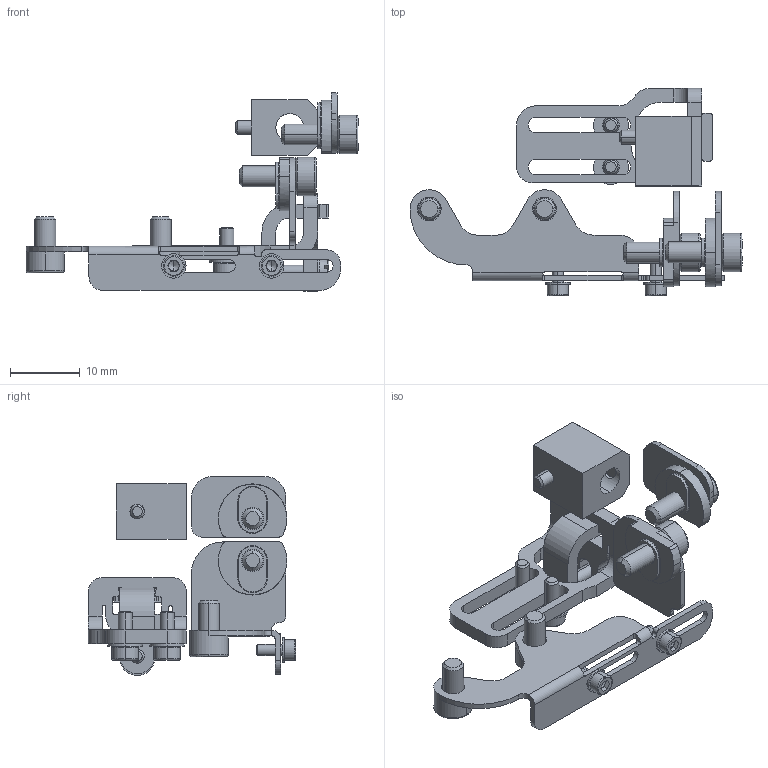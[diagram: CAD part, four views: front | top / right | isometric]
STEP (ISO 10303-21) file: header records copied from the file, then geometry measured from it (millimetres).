
FILE_DESCRIPTION (( 'STEP AP214' ), '1' );
FILE_NAME ('75003049.STEP', '2019-03-25T14:09:20', ( '' ), ( '' ), 'SwSTEP 2.0', 'SolidWorks 2015', '' );
FILE_SCHEMA (( 'AUTOMOTIVE_DESIGN' ));
Length unit declared in the file: millimetre
Products named in the file (1): 75003049
Bounding box: 47.5 x 29.65 x 28.45 mm (x, y, z)
Volume: 2543.3 mm3; surface area: 4684.5 mm2
Topology: 10 solids, 10 shells, 604 faces, 1556 edges, 990 vertices
Faces by surface type: cylinder 285, plane 199, cone 74, torus 24, bspline 22
Entity records: 26529 total; most frequent: CARTESIAN_POINT 4873, DIRECTION 3241, ORIENTED_EDGE 3088, EDGE_CURVE 1544, AXIS2_PLACEMENT_3D 1273, VERTEX_POINT 990, VECTOR 695, LINE 695
